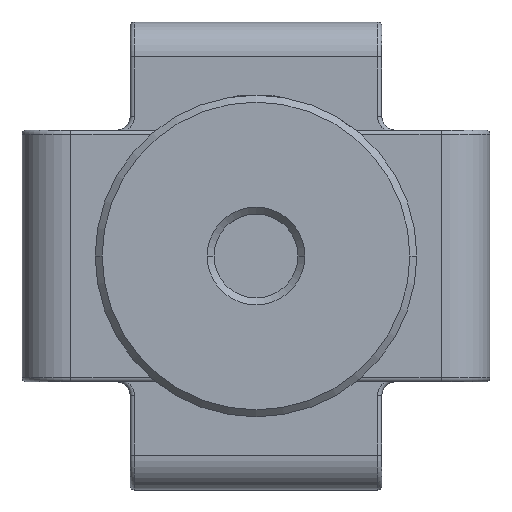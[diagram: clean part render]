
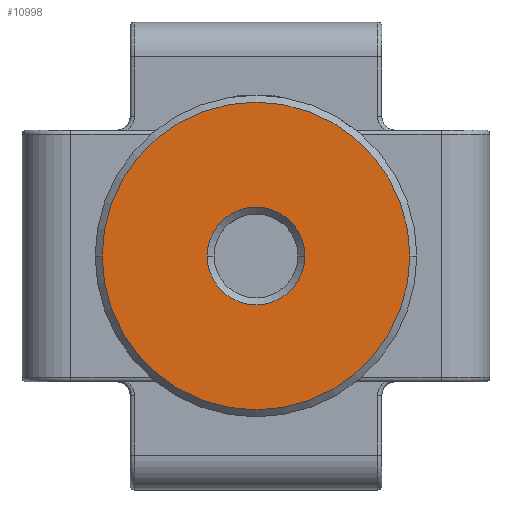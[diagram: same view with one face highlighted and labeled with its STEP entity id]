
A CAD part, front view. The second image highlights one B-rep face of the part: STEP entity #10998.
In plain terms, the highlighted planar face has unit normal (0, -1, 0).
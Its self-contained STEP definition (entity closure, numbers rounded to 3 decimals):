
#97 = FACE_BOUND ( 'NONE', #3340, .T. ) ;
#318 = DIRECTION ( 'NONE',  ( 0., 1., 0. ) ) ;
#322 = CIRCLE ( 'NONE', #8601, 11. ) ;
#522 = CIRCLE ( 'NONE', #8063, 11. ) ;
#929 = DIRECTION ( 'NONE',  ( 0., 1., 0. ) ) ;
#1233 = VERTEX_POINT ( 'NONE', #2890 ) ;
#1938 = CARTESIAN_POINT ( 'NONE',  ( 0., -25.5, 0. ) ) ;
#1994 = DIRECTION ( 'NONE',  ( -1., 0., 0. ) ) ;
#2044 = CARTESIAN_POINT ( 'NONE',  ( 3.5, -25.5, 0. ) ) ;
#2101 = EDGE_CURVE ( 'NONE', #1233, #3230, #522, .T. ) ;
#2420 = DIRECTION ( 'NONE',  ( -1., 0., 0. ) ) ;
#2517 = ORIENTED_EDGE ( 'NONE', *, *, #2101, .F. ) ;
#2815 = CIRCLE ( 'NONE', #4454, 3.5 ) ;
#2890 = CARTESIAN_POINT ( 'NONE',  ( 11., -25.5, 0. ) ) ;
#3230 = VERTEX_POINT ( 'NONE', #6813 ) ;
#3340 = EDGE_LOOP ( 'NONE', ( #6324, #7291 ) ) ;
#3483 = DIRECTION ( 'NONE',  ( 0., 1., 0. ) ) ;
#3546 = PLANE ( 'NONE',  #9981 ) ;
#3754 = CARTESIAN_POINT ( 'NONE',  ( -3.5, -25.5, 0. ) ) ;
#4318 = VERTEX_POINT ( 'NONE', #3754 ) ;
#4326 = FACE_OUTER_BOUND ( 'NONE', #9676, .T. ) ;
#4454 = AXIS2_PLACEMENT_3D ( 'NONE', #1938, #929, #5206 ) ;
#4960 = ORIENTED_EDGE ( 'NONE', *, *, #10495, .F. ) ;
#4963 = CARTESIAN_POINT ( 'NONE',  ( 0., -25.5, 0. ) ) ;
#5206 = DIRECTION ( 'NONE',  ( -1., 0., 0. ) ) ;
#5355 = AXIS2_PLACEMENT_3D ( 'NONE', #7150, #318, #1994 ) ;
#6324 = ORIENTED_EDGE ( 'NONE', *, *, #10301, .T. ) ;
#6813 = CARTESIAN_POINT ( 'NONE',  ( -11., -25.5, 0. ) ) ;
#7150 = CARTESIAN_POINT ( 'NONE',  ( 0., -25.5, 0. ) ) ;
#7291 = ORIENTED_EDGE ( 'NONE', *, *, #7466, .T. ) ;
#7466 = EDGE_CURVE ( 'NONE', #4318, #9382, #2815, .T. ) ;
#7600 = CARTESIAN_POINT ( 'NONE',  ( 0., -25.5, 0. ) ) ;
#8063 = AXIS2_PLACEMENT_3D ( 'NONE', #7600, #11072, #2420 ) ;
#8601 = AXIS2_PLACEMENT_3D ( 'NONE', #4963, #10075, #9190 ) ;
#9190 = DIRECTION ( 'NONE',  ( -1., 0., 0. ) ) ;
#9382 = VERTEX_POINT ( 'NONE', #2044 ) ;
#9468 = CARTESIAN_POINT ( 'NONE',  ( 0., -25.5, -3.5 ) ) ;
#9649 = DIRECTION ( 'NONE',  ( -1., 0., 0. ) ) ;
#9676 = EDGE_LOOP ( 'NONE', ( #4960, #2517 ) ) ;
#9981 = AXIS2_PLACEMENT_3D ( 'NONE', #9468, #3483, #9649 ) ;
#10075 = DIRECTION ( 'NONE',  ( 0., 1., 0. ) ) ;
#10301 = EDGE_CURVE ( 'NONE', #9382, #4318, #10951, .T. ) ;
#10495 = EDGE_CURVE ( 'NONE', #3230, #1233, #322, .T. ) ;
#10951 = CIRCLE ( 'NONE', #5355, 3.5 ) ;
#10998 = ADVANCED_FACE ( 'NONE', ( #4326, #97 ), #3546, .F. ) ;
#11072 = DIRECTION ( 'NONE',  ( 0., 1., 0. ) ) ;
